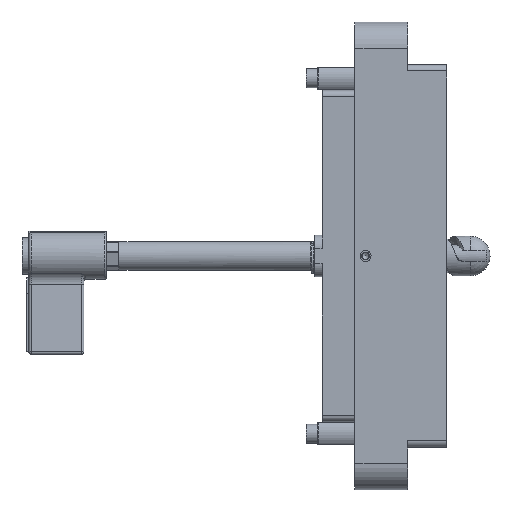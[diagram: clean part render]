
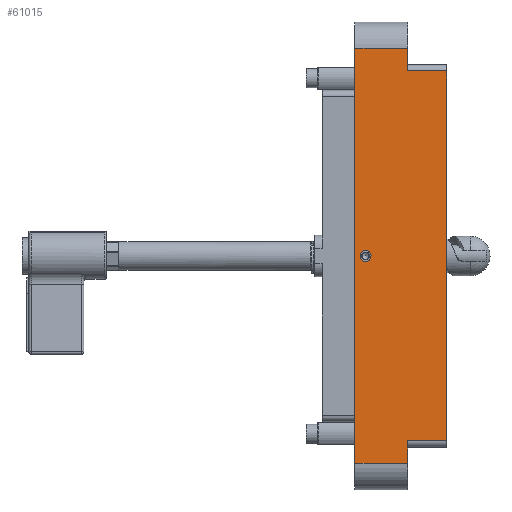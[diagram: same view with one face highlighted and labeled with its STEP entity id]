
A CAD part, top view. The second image highlights one B-rep face of the part: STEP entity #61015.
In plain terms, the highlighted planar face has unit normal (0, 0, 1).
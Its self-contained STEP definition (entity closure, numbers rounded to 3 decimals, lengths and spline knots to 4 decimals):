
#1076=CIRCLE($,#64033,0.052);
#2549=FACE_BOUND($,#12146,.T.);
#2550=FACE_BOUND($,#12147,.T.);
#12146=EDGE_LOOP($,(#50219));
#12147=EDGE_LOOP($,(#50220,#50221,#50222,#50223,#50224,#50225,#50226,#50227));
#18754=LINE($,#102590,#23631);
#18758=LINE($,#102601,#23635);
#18759=LINE($,#102603,#23636);
#18760=LINE($,#102605,#23637);
#18761=LINE($,#102607,#23638);
#18762=LINE($,#102609,#23639);
#18763=LINE($,#102611,#23640);
#18764=LINE($,#102612,#23641);
#23631=VECTOR($,#74234,3.5079);
#23635=VECTOR($,#74248,0.373);
#23636=VECTOR($,#74249,0.2146);
#23637=VECTOR($,#74250,0.5);
#23638=VECTOR($,#74251,3.937);
#23639=VECTOR($,#74252,0.5);
#23640=VECTOR($,#74253,0.2146);
#23641=VECTOR($,#74254,0.373);
#28447=VERTEX_POINT($,#102579);
#28451=VERTEX_POINT($,#102588);
#28452=VERTEX_POINT($,#102598);
#28453=VERTEX_POINT($,#102600);
#28454=VERTEX_POINT($,#102602);
#28455=VERTEX_POINT($,#102604);
#28456=VERTEX_POINT($,#102606);
#28457=VERTEX_POINT($,#102608);
#28458=VERTEX_POINT($,#102610);
#36132=EDGE_CURVE($,#28447,#28451,#18754,.T.);
#36136=EDGE_CURVE($,#28452,#28452,#1076,.T.);
#36137=EDGE_CURVE($,#28453,#28451,#18758,.T.);
#36138=EDGE_CURVE($,#28454,#28453,#18759,.T.);
#36139=EDGE_CURVE($,#28455,#28454,#18760,.T.);
#36140=EDGE_CURVE($,#28455,#28456,#18761,.T.);
#36141=EDGE_CURVE($,#28457,#28456,#18762,.T.);
#36142=EDGE_CURVE($,#28457,#28458,#18763,.T.);
#36143=EDGE_CURVE($,#28447,#28458,#18764,.T.);
#50219=ORIENTED_EDGE($,*,*,#36136,.T.);
#50220=ORIENTED_EDGE($,*,*,#36132,.T.);
#50221=ORIENTED_EDGE($,*,*,#36137,.F.);
#50222=ORIENTED_EDGE($,*,*,#36138,.F.);
#50223=ORIENTED_EDGE($,*,*,#36139,.F.);
#50224=ORIENTED_EDGE($,*,*,#36140,.T.);
#50225=ORIENTED_EDGE($,*,*,#36141,.F.);
#50226=ORIENTED_EDGE($,*,*,#36142,.T.);
#50227=ORIENTED_EDGE($,*,*,#36143,.F.);
#54822=PLANE($,#64032);
#61015=ADVANCED_FACE($,(#2549,#2550),#54822,.T.);
#64032=AXIS2_PLACEMENT_3D($,#102597,#74244,#74245);
#64033=AXIS2_PLACEMENT_3D($,#102599,#74246,#74247);
#74234=DIRECTION($,(0.,1.,0.));
#74244=DIRECTION('center_axis',(0.,0.,1.));
#74245=DIRECTION('ref_axis',(1.,0.,0.));
#74246=DIRECTION('center_axis',(0.,0.,-1.));
#74247=DIRECTION('ref_axis',(1.,0.,0.));
#74248=DIRECTION($,(1.,0.,0.));
#74249=DIRECTION($,(0.,-1.,0.));
#74250=DIRECTION($,(1.,0.,0.));
#74251=DIRECTION($,(0.,-1.,0.));
#74252=DIRECTION($,(-1.,0.,0.));
#74253=DIRECTION($,(0.,1.,0.));
#74254=DIRECTION($,(-1.,0.,0.));
#102579=CARTESIAN_POINT('',(1.3081,-1.3322,0.49));
#102588=CARTESIAN_POINT('',(1.3081,2.1757,0.49));
#102590=CARTESIAN_POINT($,(1.3081,-0.4847,0.49));
#102597=CARTESIAN_POINT('Origin',(0.9351,0.4218,0.49));
#102598=CARTESIAN_POINT('',(0.5886,0.4218,0.49));
#102599=CARTESIAN_POINT('Origin',(0.5366,0.4218,0.49));
#102600=CARTESIAN_POINT('',(0.9351,2.1757,0.49));
#102601=CARTESIAN_POINT($,(1.2281,2.1757,0.49));
#102602=CARTESIAN_POINT('',(0.9351,2.3903,0.49));
#102603=CARTESIAN_POINT($,(0.9351,1.3283,0.49));
#102604=CARTESIAN_POINT('',(0.4351,2.3903,0.49));
#102605=CARTESIAN_POINT($,(0.9351,2.3903,0.49));
#102606=CARTESIAN_POINT('',(0.4351,-1.5467,0.49));
#102607=CARTESIAN_POINT($,(0.4351,2.6403,0.49));
#102608=CARTESIAN_POINT('',(0.9351,-1.5467,0.49));
#102609=CARTESIAN_POINT($,(0.6851,-1.5467,0.49));
#102610=CARTESIAN_POINT('',(0.9351,-1.3322,0.49));
#102611=CARTESIAN_POINT($,(0.9351,-1.7967,0.49));
#102612=CARTESIAN_POINT($,(0.9351,-1.3322,0.49));
